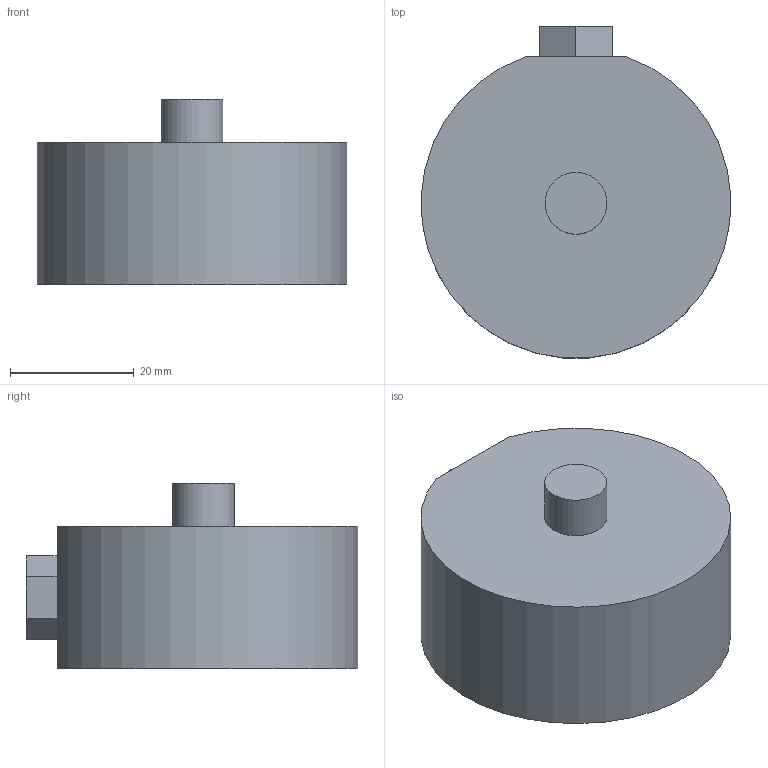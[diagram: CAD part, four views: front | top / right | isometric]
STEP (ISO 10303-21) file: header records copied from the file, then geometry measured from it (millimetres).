
FILE_DESCRIPTION(/* description */ ('Alibre Inc.'),/* implementation_level */ '2;1');
FILE_NAME(/* name */ 'export0',/* time_stamp */ '2013-08-28T12:24:46-06:00',/* author */ (''),/* organization */ (''),/* preprocessor_version */ 'ST-DEVELOPER v14',/* originating_system */ 'Alibre',/* authorisation */ '');
FILE_SCHEMA (('ALIBRE_SCHEMA','CONFIG_CONTROL_DESIGN'));
Length unit declared in the file: centimetre
Products named in the file (1): ID_1
Bounding box: 49.95 x 53.52 x 30 mm (x, y, z)
Volume: 45180.9 mm3; surface area: 8505 mm2
Topology: 1 solids, 1 shells, 23 faces, 42 edges, 28 vertices
Faces by surface type: plane 16, cylinder 7
Full cylindrical faces by diameter (mm): 4.134 x4, 10 x1, 35 x1
Entity records: 1801 total; most frequent: CARTESIAN_POINT 224, DIRECTION 137, REFERENCEDEPENDENTUV 98, CONSTRAINTPAIRUV 93, ORIENTED_EDGE 72, VECTOR 68, REFERENCEPOINTUV 54, ENTITYHEADERPROPERTIES 52
